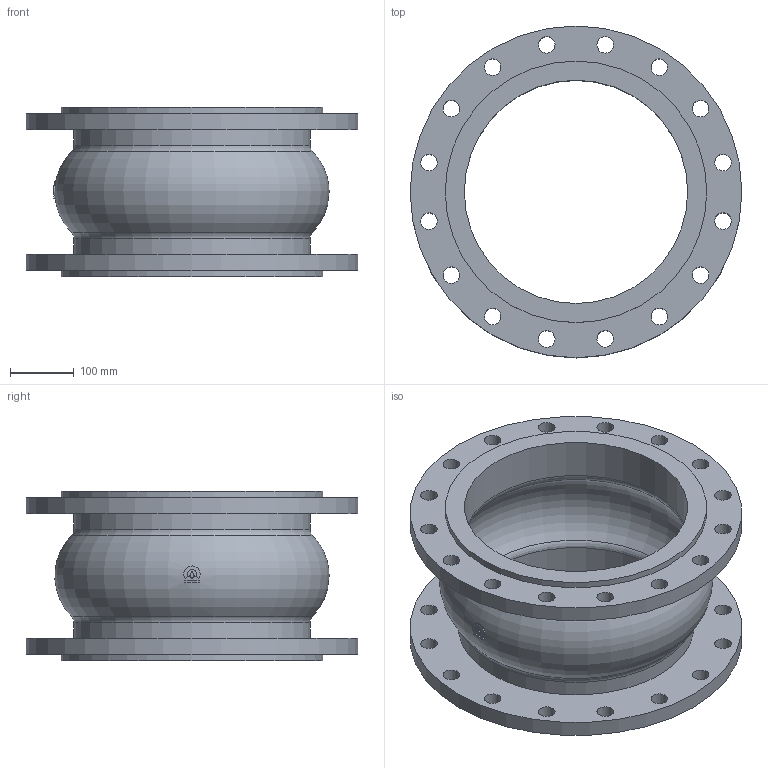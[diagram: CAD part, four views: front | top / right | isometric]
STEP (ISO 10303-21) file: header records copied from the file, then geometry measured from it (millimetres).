
FILE_DESCRIPTION(('STEP AP203'), '1');
FILE_NAME('Êîìïåíñàòîð KMS DN350 PN16_L265', '', ('UNSPECIFIED'), ('UNSPECIFIED'), 'ASCON STEP Converter 1.6', 'ASCON Math Kernel', '');
FILE_SCHEMA(('CONFIG_CONTROL_DESIGN'));
Length unit declared in the file: millimetre
Bounding box: 520 x 520 x 265 mm (x, y, z)
Volume: 8688165.9 mm3; surface area: 1172668.1 mm2
Topology: 1 solids, 1 shells, 69 faces, 172 edges, 112 vertices
Faces by surface type: cylinder 47, plane 13, torus 9
Full cylindrical faces by diameter (mm): 26 x32, 350 x2, 370 x2, 410 x2, 520 x2
Entity records: 3564 total; most frequent: CARTESIAN_POINT 1335, DIRECTION 334, ORIENTED_EDGE 252, EDGE_LOOP 188, AXIS2_PLACEMENT_3D 160, EDGE_CURVE 126, VERTEX_POINT 112, FACE_BOUND 96
